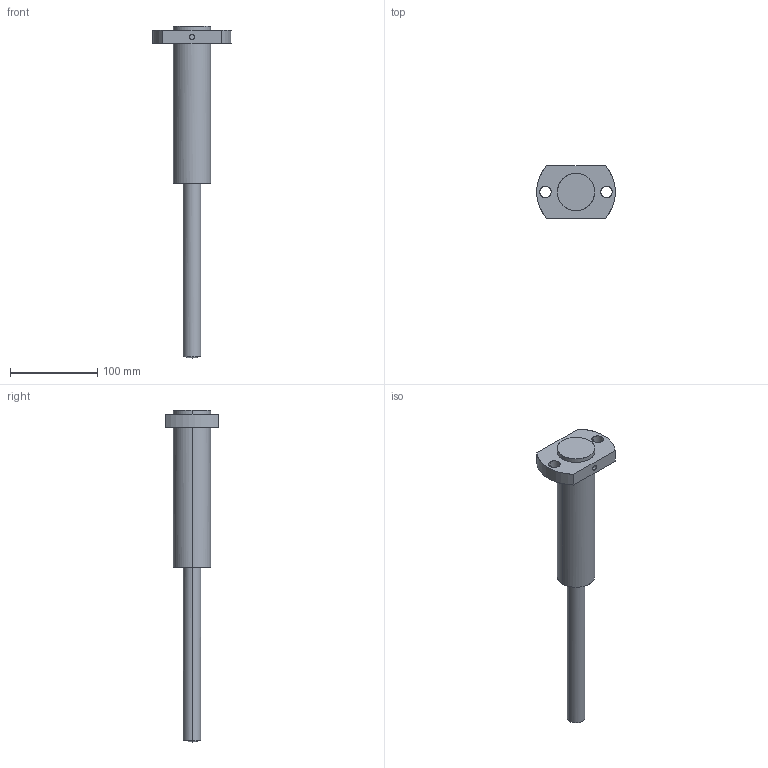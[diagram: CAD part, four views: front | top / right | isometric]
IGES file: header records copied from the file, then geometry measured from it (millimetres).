
Global section: file name: E:\UnigraphicsGraphicData\MISUMI_PRESS-PARTS\IGES\3d_papz20-200-180-160-175_01706_r00.igs; native system: NX V5.0; preprocessor: UGS NX IGES V5.0; author: MISUMI; date: 20110105.162227; units: millimetre
Bounding box: 90 x 60 x 380 mm (x, y, z)
Surface area: 53975.7 mm2 (no closed solid volume)
Topology: 0 solids, 0 shells, 23 faces, 220 edges, 218 vertices
Faces by surface type: bspline 23
